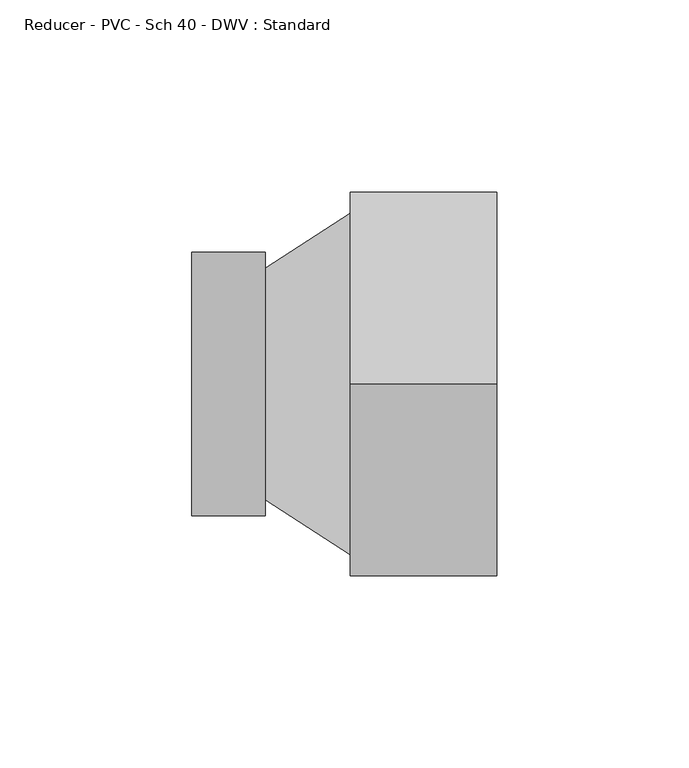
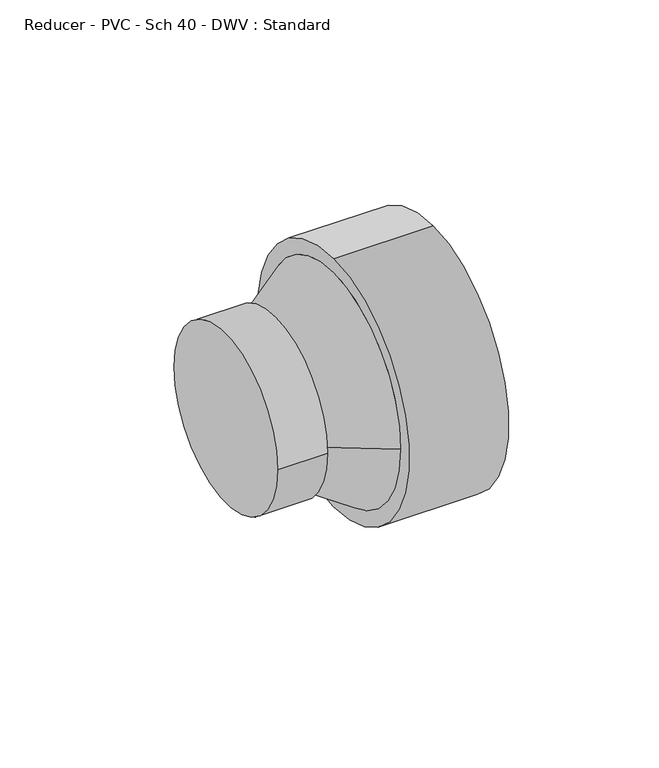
"""IFC4 building model written with IfcOpenShell, lengths in millimetres: pipe fitting geometry, Reducer - PVC - Sch 40 - DWV : Standard."""

from ifc_helpers import new_model, si_unit, frame, origin, place, context, project, spatial, polyline, circle_curve, source, transform, mapped, element, save
from ifc_brep_helpers import plane_surface, cylinder_surface, revolved_surface, advanced_brep


def reducer_pvc_sch_40_dwv_standard_44865e00(model_context):
    return source(origin(), model_context, "Body", "AdvancedBrep", [
        advanced_brep(
        [(0.0, -34.3154, 0.0), (0.0, 34.3154, 0.0), (19.05, -34.3154, 0.0), (19.05, 34.3154, 0.0), (19.05, 30.1625, 0.0), (19.05, -30.1625, 0.0), (41.275, 44.45, 0.0), (41.275, -44.45, 0.0), (41.275, 0.0, 50.2666), (41.275, 0.0, -50.2666), (79.375, 0.0, 50.2666), (79.375, 0.0, -50.2666)],
        [
            (0, 1, circle_curve(frame((0.0, 0.0, 0.0), z_axis=(-1.0, 0.0, 0.0), x_axis=(0.0, 1.0, 0.0)), 34.3154)),
            (1, 0, circle_curve(frame((0.0, 0.0, 0.0), z_axis=(-1.0, 0.0, 0.0), x_axis=(0.0, 1.0, 0.0)), 34.3154)),
            (2, 3, circle_curve(frame((19.05, 0.0, 0.0), z_axis=(1.0, 0.0, 0.0), x_axis=(0.0, 1.0, 0.0)), 34.3154)),
            (3, 2, circle_curve(frame((19.05, 0.0, 0.0), z_axis=(1.0, 0.0, 0.0), x_axis=(0.0, 1.0, 0.0)), 34.3154)),
            (4, 5, circle_curve(frame((19.05, 0.0, 0.0), z_axis=(-1.0, 0.0, 0.0), x_axis=(0.0, -1.0, 0.0)), 30.1625)),
            (5, 4, circle_curve(frame((19.05, 0.0, 0.0), z_axis=(-1.0, 0.0, 0.0), x_axis=(0.0, 1.0, 0.0)), 30.1625)),
            (0, 2),
            (3, 1),
            (4, 6),
            (6, 7, circle_curve(frame((41.275, 0.0, 0.0), z_axis=(-1.0, 0.0, 0.0), x_axis=(0.0, -1.0, 0.0)), 44.45)),
            (7, 5),
            (7, 6, circle_curve(frame((41.275, 0.0, 0.0), z_axis=(-1.0, 0.0, 0.0), x_axis=(0.0, 1.0, 0.0)), 44.45)),
            (8, 9, circle_curve(frame((41.275, 0.0, 0.0), z_axis=(-1.0, 0.0, 0.0), x_axis=(0.0, 0.0, -1.0)), 50.2666)),
            (9, 8, circle_curve(frame((41.275, 0.0, 0.0), z_axis=(-1.0, 0.0, 0.0), x_axis=(0.0, 0.0, -1.0)), 50.2666)),
            (10, 11, circle_curve(frame((79.375, 0.0, 0.0), z_axis=(1.0, 0.0, 0.0), x_axis=(0.0, 0.0, -1.0)), 50.2666)),
            (11, 10, circle_curve(frame((79.375, 0.0, 0.0), z_axis=(1.0, 0.0, 0.0), x_axis=(0.0, 0.0, -1.0)), 50.2666)),
            (8, 10),
            (11, 9),
        ],
        [
            plane_surface(frame((0.0, 0.0, 0.0), z_axis=(-1.0, 0.0, 0.0), x_axis=(0.0, 0.0, 1.0))),
            plane_surface(frame((19.05, 0.0, 0.0), z_axis=(1.0, 0.0, 0.0), x_axis=(0.0, 0.0, 1.0))),
            cylinder_surface(frame((0.0, 0.0, 0.0), z_axis=(-1.0, 0.0, 0.0), x_axis=(0.0, 1.0, 0.0)), 34.3154),
            revolved_surface(polyline([(19.049999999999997, 30.16249999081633, 0.0), (41.275, 44.45, 0.0)]), (-27.8694444, 0.0, 0.0), (1.0, 0.0, 0.0)),
            plane_surface(frame((41.275, 0.0, 0.0), z_axis=(-1.0, 0.0, 0.0), x_axis=(0.0, 1.0, 0.0))),
            plane_surface(frame((79.375, 0.0, 0.0), z_axis=(1.0, 0.0, 0.0), x_axis=(0.0, 1.0, 0.0))),
            cylinder_surface(frame((41.275, 0.0, 0.0), z_axis=(-1.0, 0.0, 0.0), x_axis=(0.0, 0.0, -1.0)), 50.2666),
        ],
        [
            (0, [[1, 2]]),
            (1, [[3, 4], [5, 6]]),
            (2, [[-1, 7, -4, 8]]),
            (2, [[-2, -8, -3, -7]]),
            (3, [[9, 10, 11, -5]]),
            (3, [[-9, -6, -11, 12]]),
            (4, [[13, 14], [-10, -12]]),
            (5, [[15, 16]]),
            (6, [[-13, 17, -16, 18]]),
            (6, [[-14, -18, -15, -17]]),
        ],
    ),
    ])


if __name__ == "__main__":
    model = new_model("IFC4")
    model_context = context("Model", 3, world=origin())
    ifc_project = project(units=[si_unit("LENGTHUNIT", "METRE", prefix="MILLI")], contexts=[model_context])
    site = spatial("IfcSite", under=ifc_project)
    building = spatial("IfcBuilding", under=site)
    placement = place(None, origin())
    reducer_pvc_sch_40_dwv_standard_shape = reducer_pvc_sch_40_dwv_standard_44865e00(model_context)
    element("IfcPipeFitting", 1, ObjectType="Reducer - PVC - Sch 40 - DWV : Standard", at=placement, inside=building, context=model_context, shape_type="MappedRepresentation", body=[
        mapped(reducer_pvc_sch_40_dwv_standard_shape, transform((0.0, 0.0, 0.0), x_axis=(1.0, 0.0, 0.0), y_axis=(0.0, 1.0, 0.0), z_axis=(0.0, 0.0, 1.0))),
    ])
    save(model, "model.ifc")
